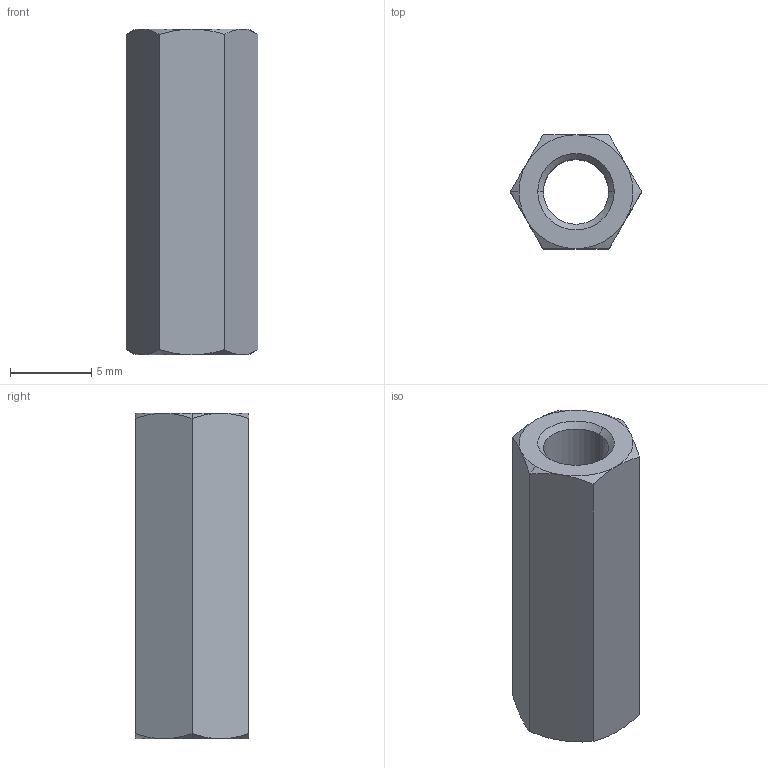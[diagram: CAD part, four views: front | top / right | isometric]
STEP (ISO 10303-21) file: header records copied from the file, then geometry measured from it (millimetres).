
FILE_DESCRIPTION (( 'STEP AP203' ), '1' );
FILE_NAME ('N0503.040-020-NP.step', '2025-02-27T14:42:50', ( '' ), ( '' ), 'SwSTEP 2.0', 'SolidWorks 2019', '' );
FILE_SCHEMA (( 'CONFIG_CONTROL_DESIGN' ));
Length unit declared in the file: millimetre
Products named in the file (1): N0503.040-020-NP
Bounding box: 8.08 x 7 x 20 mm (x, y, z)
Volume: 595 mm3; surface area: 787.2 mm2
Topology: 1 solids, 1 shells, 28 faces, 60 edges, 34 vertices
Faces by surface type: cone 18, plane 8, cylinder 2
Entity records: 879 total; most frequent: CARTESIAN_POINT 227, ORIENTED_EDGE 120, DIRECTION 116, EDGE_CURVE 60, AXIS2_PLACEMENT_3D 51, VERTEX_POINT 34, EDGE_LOOP 30, FACE_OUTER_BOUND 28
